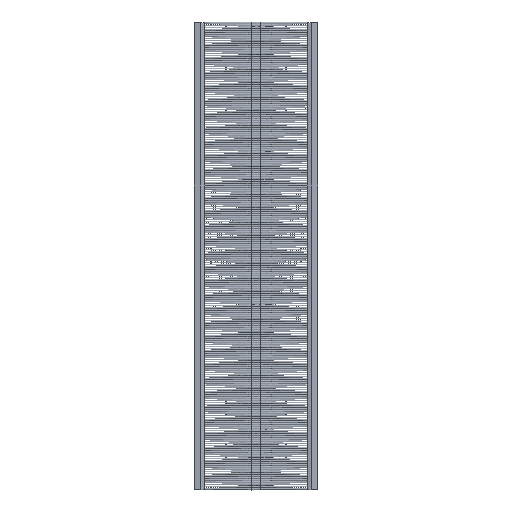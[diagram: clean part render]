
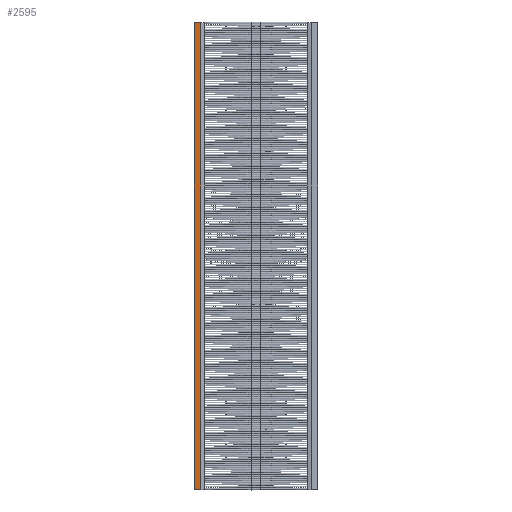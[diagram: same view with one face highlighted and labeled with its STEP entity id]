
A CAD part, front view. The second image highlights one B-rep face of the part: STEP entity #2595.
In plain terms, the highlighted planar face has unit normal (-0.09, -0.996, 0) as drawn and (0, -0.091, 0.996) by its records, which use the part's own axes.
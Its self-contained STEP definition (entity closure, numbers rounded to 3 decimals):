
#2569 = VERTEX_POINT('',#2570);
#2570 = CARTESIAN_POINT('',(-417.,-7.,4.75));
#2576 = EDGE_CURVE('',#2577,#2569,#2579,.T.);
#2577 = VERTEX_POINT('',#2578);
#2578 = CARTESIAN_POINT('',(417.,-7.,4.75));
#2579 = LINE('',#2580,#2581);
#2580 = CARTESIAN_POINT('',(417.,-7.,4.75));
#2581 = VECTOR('',#2582,1.);
#2582 = DIRECTION('',(-1.,-0.,-0.));
#2595 = ADVANCED_FACE('',(#2596),#2621,.F.);
#2596 = FACE_BOUND('',#2597,.T.);
#2597 = EDGE_LOOP('',(#2598,#2606,#2614,#2620));
#2598 = ORIENTED_EDGE('',*,*,#2599,.T.);
#2599 = EDGE_CURVE('',#2569,#2600,#2602,.T.);
#2600 = VERTEX_POINT('',#2601);
#2601 = CARTESIAN_POINT('',(-417.,-18.,3.75));
#2602 = LINE('',#2603,#2604);
#2603 = CARTESIAN_POINT('',(-417.,-7.349,4.718));
#2604 = VECTOR('',#2605,1.);
#2605 = DIRECTION('',(0.,-0.996,-0.091));
#2606 = ORIENTED_EDGE('',*,*,#2607,.F.);
#2607 = EDGE_CURVE('',#2608,#2600,#2610,.T.);
#2608 = VERTEX_POINT('',#2609);
#2609 = CARTESIAN_POINT('',(417.,-18.,3.75));
#2610 = LINE('',#2611,#2612);
#2611 = CARTESIAN_POINT('',(417.,-18.,3.75));
#2612 = VECTOR('',#2613,1.);
#2613 = DIRECTION('',(-1.,-0.,-0.));
#2614 = ORIENTED_EDGE('',*,*,#2615,.F.);
#2615 = EDGE_CURVE('',#2577,#2608,#2616,.T.);
#2616 = LINE('',#2617,#2618);
#2617 = CARTESIAN_POINT('',(417.,-7.349,4.718));
#2618 = VECTOR('',#2619,1.);
#2619 = DIRECTION('',(0.,-0.996,-0.091));
#2620 = ORIENTED_EDGE('',*,*,#2576,.T.);
#2621 = PLANE('',#2622);
#2622 = AXIS2_PLACEMENT_3D('',#2623,#2624,#2625);
#2623 = CARTESIAN_POINT('',(417.,-7.349,4.718));
#2624 = DIRECTION('',(0.,0.091,-0.996));
#2625 = DIRECTION('',(0.,0.996,0.091));
